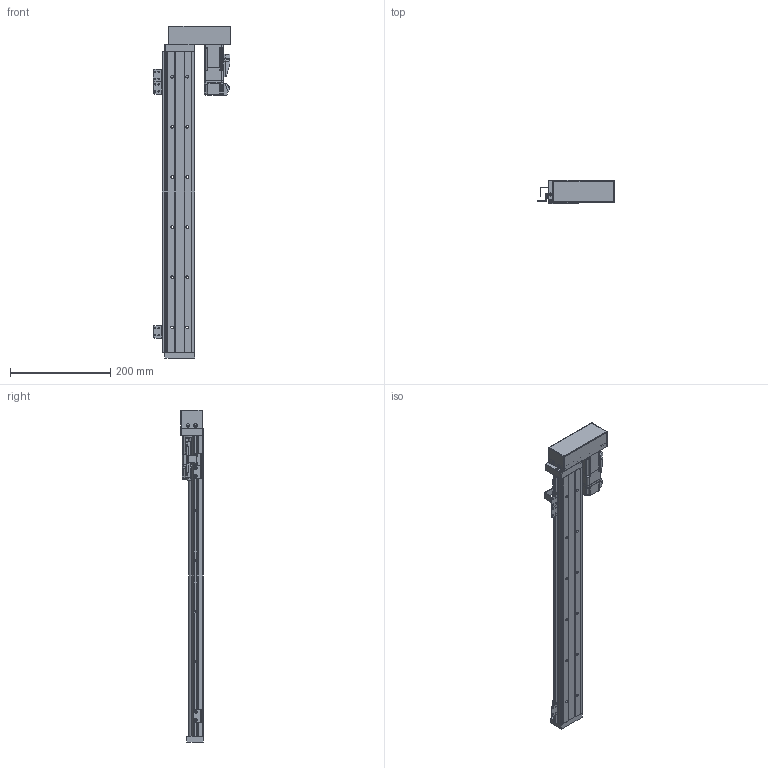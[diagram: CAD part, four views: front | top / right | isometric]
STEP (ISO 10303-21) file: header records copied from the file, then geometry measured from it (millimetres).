
FILE_DESCRIPTION (( 'STEP AP203' ), '1' );
FILE_NAME ('KH60D10C-600A1-H2LS0 - Z.STEP', '2022-06-09T01:13:59', ( 'CXY' ), ( 'BT' ), 'SwSTEP 2.0', 'SolidWorks 2016', '' );
FILE_SCHEMA (( 'CONFIG_CONTROL_DESIGN' ));
Length unit declared in the file: millimetre
Products named in the file (21): 晦埴芛M3X6蹟隊; KH86-08-(SX674); KK60-01-02-XXXX_KK60-01-02-150; KK60-02-03; KK60-08-01; 囀鞠褒す埴芛蹟隊M3℅5; KK60-04-07G; B-KK60-A1-F0C; 216々湍; 侂狟萇儂P10B; KK60-02-02; 内六角圆柱头螺钉M3×18; KH60-500; 錨璃2; 鞠褒蹟譫M3; KK60-02-04; 内六角圆柱头螺钉M3×10; KH60D10C-600A1-H2LS0 - Z; KK60-02-01-H0_KK60-02-01-H0&H1; KH60-02-0000; 綴釱
Assembly tree (33 placements, depth 3):
  KH60D10C-600A1-H2LS0 - Z
    KH60-500
    B-KK60-A1-F0C
      錨璃2
    綴釱
    KK60-01-02-XXXX_KK60-01-02-150
    KH60-02-0000
      KK60-02-01-H0_KK60-02-01-H0&H1
      KK60-02-02
      KK60-02-03
      内六角圆柱头螺钉M3×18  x4
      侂狟萇儂P10B
      KK60-02-04
      216々湍
      内六角圆柱头螺钉M3×10  x4
      晦埴芛M3X6蹟隊  x4
    KH86-08-(SX674)  x3
      KK60-08-01
      囀鞠褒す埴芛蹟隊M3℅5
      鞠褒蹟譫M3
    KK60-04-07G
Bounding box: 153.7 x 45 x 662 mm (x, y, z)
Volume: 808838.3 mm3; surface area: 279523.1 mm2
Topology: 39 solids, 39 shells, 2250 faces, 5874 edges, 3767 vertices
Faces by surface type: plane 1044, cylinder 591, bspline 280, cone 261, torus 62, sphere 12
Entity records: 60468 total; most frequent: CARTESIAN_POINT 15036, ORIENTED_EDGE 9354, DIRECTION 8109, EDGE_CURVE 4677, VERTEX_POINT 3070, VECTOR 2867, LINE 2867, AXIS2_PLACEMENT_3D 2621
